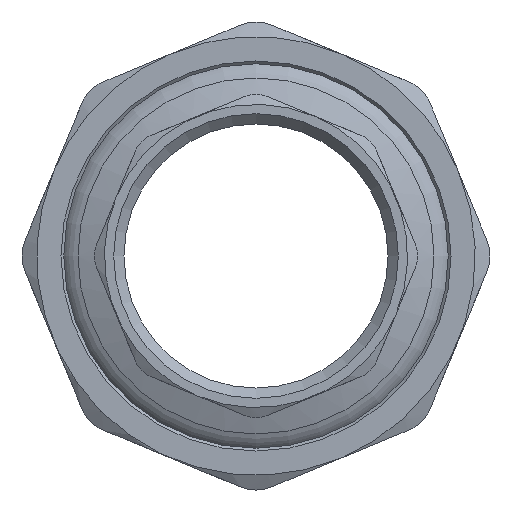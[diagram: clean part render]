
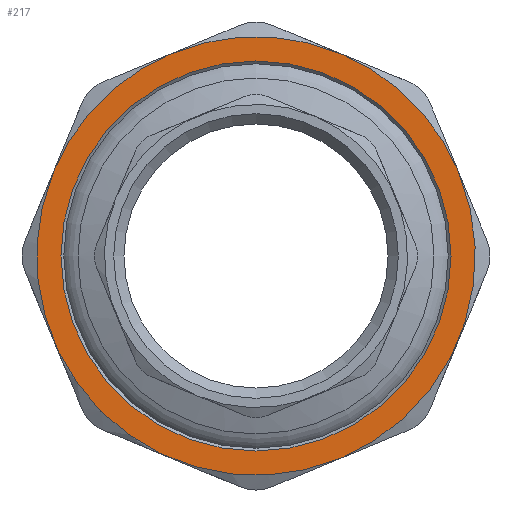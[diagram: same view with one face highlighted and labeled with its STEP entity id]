
A CAD part, front view. The second image highlights one B-rep face of the part: STEP entity #217.
In plain terms, the highlighted planar face has unit normal (0, -1, 0).
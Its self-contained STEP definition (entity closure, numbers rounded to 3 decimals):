
#217=ADVANCED_FACE('',(#1406,#1408),#1410,.T.);
#1406=FACE_BOUND('',#1407,.T.);
#1407=EDGE_LOOP('',(#2711,#2712));
#1408=FACE_BOUND('',#1409,.T.);
#1409=EDGE_LOOP('',(#2713));
#1410=PLANE('',#1411);
#1411=AXIS2_PLACEMENT_3D('',#1412,#1413,#1414);
#1412=CARTESIAN_POINT('',(0.,18.303,0.));
#1413=DIRECTION('',(0.,-1.,0.));
#1414=DIRECTION('',(1.,0.,0.));
#2711=ORIENTED_EDGE('',*,*,#3374,.T.);
#2712=ORIENTED_EDGE('',*,*,#3373,.T.);
#2713=ORIENTED_EDGE('',*,*,#3400,.T.);
#3373=EDGE_CURVE('',#4184,#4204,#4219,.F.);
#3374=EDGE_CURVE('',#4204,#4184,#4220,.F.);
#3400=EDGE_CURVE('',#4265,#4265,#4266,.F.);
#4184=VERTEX_POINT('',#7525);
#4204=VERTEX_POINT('',#7827);
#4219=CIRCLE('',#7915,37.25);
#4220=CIRCLE('',#7919,37.25);
#4265=VERTEX_POINT('',#8635);
#4266=CIRCLE('',#8636,33.126);
#7525=CARTESIAN_POINT('',(14.255,18.303,-34.415));
#7827=CARTESIAN_POINT('',(-34.415,18.303,14.255));
#7915=AXIS2_PLACEMENT_3D('',#7916,#7917,#7918);
#7916=CARTESIAN_POINT('',(0.,18.303,0.));
#7917=DIRECTION('',(0.,1.,0.));
#7918=DIRECTION('',(-0.924,0.,0.383));
#7919=AXIS2_PLACEMENT_3D('',#7920,#7921,#7922);
#7920=CARTESIAN_POINT('',(0.,18.303,0.));
#7921=DIRECTION('',(0.,1.,0.));
#7922=DIRECTION('',(0.383,0.,-0.924));
#8635=CARTESIAN_POINT('',(0.,18.303,33.126));
#8636=AXIS2_PLACEMENT_3D('',#8637,#8638,#8639);
#8637=CARTESIAN_POINT('',(0.,18.303,0.));
#8638=DIRECTION('',(0.,-1.,0.));
#8639=DIRECTION('',(0.,0.,1.));
